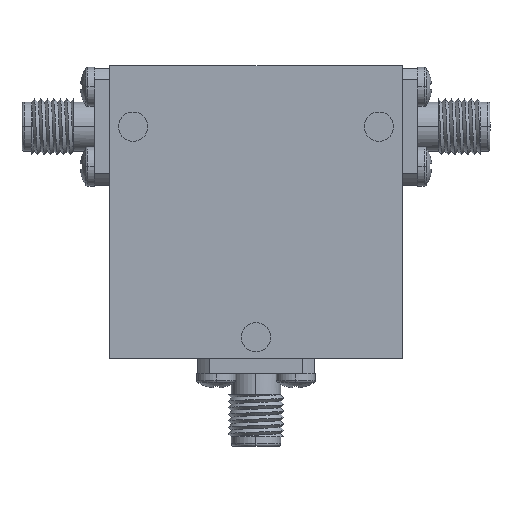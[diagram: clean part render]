
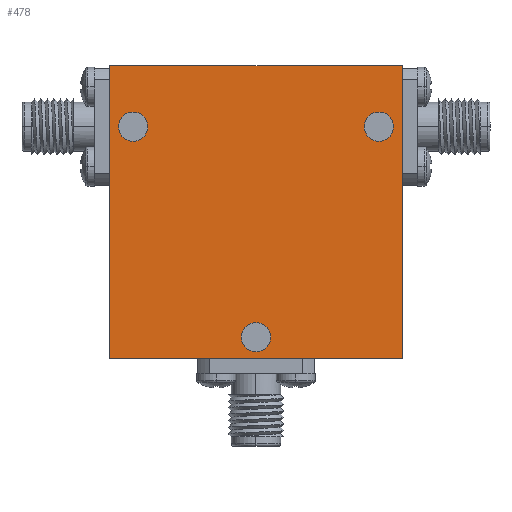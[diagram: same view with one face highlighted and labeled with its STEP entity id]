
A CAD part, top view. The second image highlights one B-rep face of the part: STEP entity #478.
In plain terms, the highlighted planar face has unit normal (0, 0, 1) as drawn and (0, 0, -1) by its records, which use the part's own axes.
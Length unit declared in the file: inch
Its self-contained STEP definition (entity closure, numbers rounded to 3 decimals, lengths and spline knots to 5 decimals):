
#36 = VECTOR ( 'NONE', #356, 39.37008 ) ;
#63 = DIRECTION ( 'NONE',  ( 1., 0., 0. ) ) ;
#92 = CIRCLE ( 'NONE', #1828, 0.0625 ) ;
#148 = AXIS2_PLACEMENT_3D ( 'NONE', #156, #1317, #1038 ) ;
#156 = CARTESIAN_POINT ( 'NONE',  ( 0.625, 0.09, -0.25 ) ) ;
#219 = CARTESIAN_POINT ( 'NONE',  ( 0., 0., -0.25 ) ) ;
#289 = EDGE_CURVE ( 'NONE', #2841, #3385, #1332, .T. ) ;
#341 = EDGE_LOOP ( 'NONE', ( #1389, #487, #1177, #2161 ) ) ;
#356 = DIRECTION ( 'NONE',  ( 0., 1., 0. ) ) ;
#420 = DIRECTION ( 'NONE',  ( 1., 0., 0. ) ) ;
#478 = ADVANCED_FACE ( 'NONE', ( #3775, #1650, #2198, #779 ), #1390, .F. ) ;
#487 = ORIENTED_EDGE ( 'NONE', *, *, #1342, .F. ) ;
#489 = AXIS2_PLACEMENT_3D ( 'NONE', #3397, #3452, #1911 ) ;
#493 = EDGE_LOOP ( 'NONE', ( #2909, #1103 ) ) ;
#497 = AXIS2_PLACEMENT_3D ( 'NONE', #1745, #938, #2054 ) ;
#512 = CARTESIAN_POINT ( 'NONE',  ( 1.15, 0.99, -0.25 ) ) ;
#564 = ORIENTED_EDGE ( 'NONE', *, *, #1608, .T. ) ;
#592 = CIRCLE ( 'NONE', #1345, 0.0625 ) ;
#649 = CARTESIAN_POINT ( 'NONE',  ( 1.0875, 0.99, -0.25 ) ) ;
#719 = CIRCLE ( 'NONE', #489, 0.0625 ) ;
#779 = FACE_OUTER_BOUND ( 'NONE', #341, .T. ) ;
#874 = AXIS2_PLACEMENT_3D ( 'NONE', #1590, #1304, #420 ) ;
#938 = DIRECTION ( 'NONE',  ( 0., 0., 1. ) ) ;
#1029 = CARTESIAN_POINT ( 'NONE',  ( 0.0375, 0.99, -0.25 ) ) ;
#1038 = DIRECTION ( 'NONE',  ( 1., 0., 0. ) ) ;
#1089 = CARTESIAN_POINT ( 'NONE',  ( 0., 0., -0.25 ) ) ;
#1103 = ORIENTED_EDGE ( 'NONE', *, *, #3784, .T. ) ;
#1177 = ORIENTED_EDGE ( 'NONE', *, *, #2142, .F. ) ;
#1227 = CARTESIAN_POINT ( 'NONE',  ( 1.25, 0., -0.25 ) ) ;
#1280 = CARTESIAN_POINT ( 'NONE',  ( 0.5625, 0.09, -0.25 ) ) ;
#1304 = DIRECTION ( 'NONE',  ( 0., 0., 1. ) ) ;
#1314 = CARTESIAN_POINT ( 'NONE',  ( 0., 1.25, -0.25 ) ) ;
#1317 = DIRECTION ( 'NONE',  ( 0., 0., 1. ) ) ;
#1332 = CIRCLE ( 'NONE', #497, 0.0625 ) ;
#1342 = EDGE_CURVE ( 'NONE', #2810, #2551, #3669, .T. ) ;
#1345 = AXIS2_PLACEMENT_3D ( 'NONE', #3412, #2855, #2554 ) ;
#1389 = ORIENTED_EDGE ( 'NONE', *, *, #1964, .F. ) ;
#1390 = PLANE ( 'NONE',  #3290 ) ;
#1397 = EDGE_CURVE ( 'NONE', #3504, #2277, #1499, .T. ) ;
#1499 = CIRCLE ( 'NONE', #874, 0.0625 ) ;
#1511 = EDGE_CURVE ( 'NONE', #3508, #1967, #719, .T. ) ;
#1529 = CARTESIAN_POINT ( 'NONE',  ( 0., 0., -0.25 ) ) ;
#1590 = CARTESIAN_POINT ( 'NONE',  ( 0.1, 0.99, -0.25 ) ) ;
#1608 = EDGE_CURVE ( 'NONE', #2277, #3504, #592, .T. ) ;
#1650 = FACE_BOUND ( 'NONE', #2621, .T. ) ;
#1698 = DIRECTION ( 'NONE',  ( -1., 0., 0. ) ) ;
#1706 = CIRCLE ( 'NONE', #148, 0.0625 ) ;
#1726 = VERTEX_POINT ( 'NONE', #2316 ) ;
#1745 = CARTESIAN_POINT ( 'NONE',  ( 1.15, 0.99, -0.25 ) ) ;
#1828 = AXIS2_PLACEMENT_3D ( 'NONE', #512, #1968, #63 ) ;
#1911 = DIRECTION ( 'NONE',  ( 1., 0., 0. ) ) ;
#1949 = CARTESIAN_POINT ( 'NONE',  ( 1.2125, 0.99, -0.25 ) ) ;
#1957 = VECTOR ( 'NONE', #3587, 39.37008 ) ;
#1964 = EDGE_CURVE ( 'NONE', #2551, #1726, #3251, .T. ) ;
#1967 = VERTEX_POINT ( 'NONE', #1280 ) ;
#1968 = DIRECTION ( 'NONE',  ( 0., 0., 1. ) ) ;
#1976 = DIRECTION ( 'NONE',  ( 1., 0., 0. ) ) ;
#2054 = DIRECTION ( 'NONE',  ( 1., 0., 0. ) ) ;
#2083 = CARTESIAN_POINT ( 'NONE',  ( 1.25, 1.25, -0.25 ) ) ;
#2142 = EDGE_CURVE ( 'NONE', #2726, #2810, #2380, .T. ) ;
#2161 = ORIENTED_EDGE ( 'NONE', *, *, #2334, .F. ) ;
#2184 = CARTESIAN_POINT ( 'NONE',  ( 0., 1.25, -0.25 ) ) ;
#2189 = VECTOR ( 'NONE', #3694, 39.37008 ) ;
#2198 = FACE_BOUND ( 'NONE', #2900, .T. ) ;
#2277 = VERTEX_POINT ( 'NONE', #2487 ) ;
#2316 = CARTESIAN_POINT ( 'NONE',  ( 1.25, 1.25, -0.25 ) ) ;
#2334 = EDGE_CURVE ( 'NONE', #1726, #2726, #3347, .T. ) ;
#2380 = LINE ( 'NONE', #1314, #2189 ) ;
#2487 = CARTESIAN_POINT ( 'NONE',  ( 0.1625, 0.99, -0.25 ) ) ;
#2551 = VERTEX_POINT ( 'NONE', #1227 ) ;
#2554 = DIRECTION ( 'NONE',  ( 1., 0., 0. ) ) ;
#2621 = EDGE_LOOP ( 'NONE', ( #2741, #2811 ) ) ;
#2719 = EDGE_CURVE ( 'NONE', #1967, #3508, #1706, .T. ) ;
#2726 = VERTEX_POINT ( 'NONE', #2184 ) ;
#2741 = ORIENTED_EDGE ( 'NONE', *, *, #1511, .T. ) ;
#2810 = VERTEX_POINT ( 'NONE', #1089 ) ;
#2811 = ORIENTED_EDGE ( 'NONE', *, *, #2719, .T. ) ;
#2840 = DIRECTION ( 'NONE',  ( 0., 0., 1. ) ) ;
#2841 = VERTEX_POINT ( 'NONE', #1949 ) ;
#2855 = DIRECTION ( 'NONE',  ( 0., 0., 1. ) ) ;
#2900 = EDGE_LOOP ( 'NONE', ( #564, #3033 ) ) ;
#2909 = ORIENTED_EDGE ( 'NONE', *, *, #289, .T. ) ;
#3033 = ORIENTED_EDGE ( 'NONE', *, *, #1397, .T. ) ;
#3251 = LINE ( 'NONE', #2083, #36 ) ;
#3290 = AXIS2_PLACEMENT_3D ( 'NONE', #219, #2840, #1976 ) ;
#3347 = LINE ( 'NONE', #3414, #3627 ) ;
#3359 = CARTESIAN_POINT ( 'NONE',  ( 0.6875, 0.09, -0.25 ) ) ;
#3385 = VERTEX_POINT ( 'NONE', #649 ) ;
#3397 = CARTESIAN_POINT ( 'NONE',  ( 0.625, 0.09, -0.25 ) ) ;
#3412 = CARTESIAN_POINT ( 'NONE',  ( 0.1, 0.99, -0.25 ) ) ;
#3414 = CARTESIAN_POINT ( 'NONE',  ( 0., 1.25, -0.25 ) ) ;
#3452 = DIRECTION ( 'NONE',  ( 0., 0., 1. ) ) ;
#3504 = VERTEX_POINT ( 'NONE', #1029 ) ;
#3508 = VERTEX_POINT ( 'NONE', #3359 ) ;
#3587 = DIRECTION ( 'NONE',  ( 1., 0., 0. ) ) ;
#3627 = VECTOR ( 'NONE', #1698, 39.37008 ) ;
#3669 = LINE ( 'NONE', #1529, #1957 ) ;
#3694 = DIRECTION ( 'NONE',  ( 0., -1., 0. ) ) ;
#3775 = FACE_BOUND ( 'NONE', #493, .T. ) ;
#3784 = EDGE_CURVE ( 'NONE', #3385, #2841, #92, .T. ) ;
